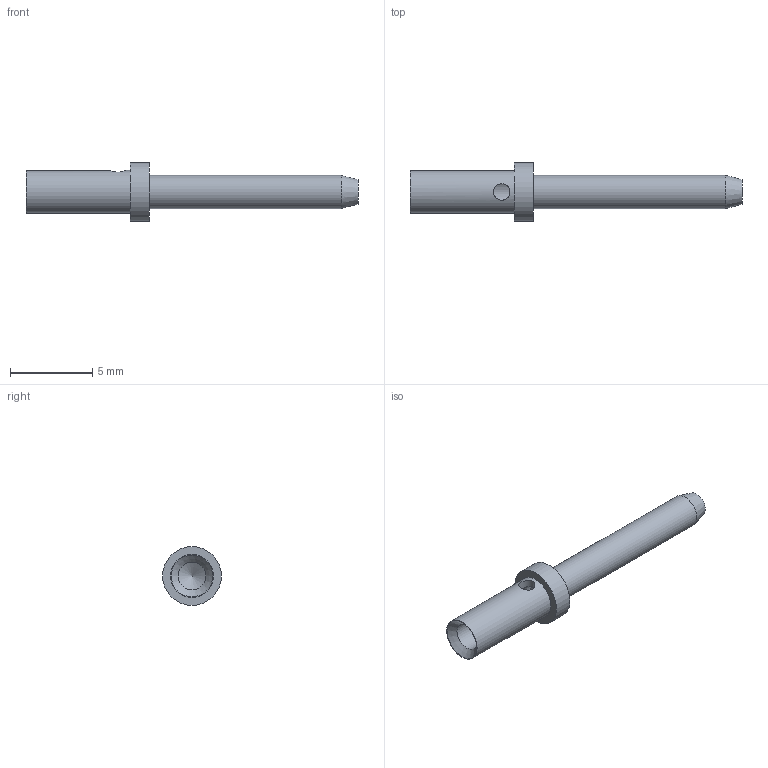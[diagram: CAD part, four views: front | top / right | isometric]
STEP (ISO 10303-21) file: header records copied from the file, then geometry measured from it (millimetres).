
FILE_DESCRIPTION(/* description */ (''),/* implementation_level */ '2;1');
FILE_NAME(/* name */ 'Z:\STEP folder\460329903.ipt.stp',/* time_stamp */ '2016-12-21T13:06:18+00:00',/* author */ ('P. Karlsons'),/* organization */ (''),/* preprocessor_version */ 'ST-DEVELOPER v15.2',/* originating_system */ 'Autodesk Inventor 2014',/* authorisation */ '');
FILE_SCHEMA (('AUTOMOTIVE_DESIGN { 1 0 10303 214 3 1 1 }'));
Length unit declared in the file: millimetre
Products named in the file (1): 460329903
Bounding box: 20.22 x 3.58 x 3.58 mm (x, y, z)
Volume: 69.6 mm3; surface area: 199.8 mm2
Topology: 1 solids, 1 shells, 12 faces, 22 edges, 14 vertices
Faces by surface type: cylinder 5, plane 4, cone 3
Full cylindrical faces by diameter (mm): 1 x1, 1.7 x1, 2.03 x1, 2.62 x1, 3.58 x1
Entity records: 329 total; most frequent: CARTESIAN_POINT 103, DIRECTION 46, EDGE_LOOP 24, ORIENTED_EDGE 24, AXIS2_PLACEMENT_3D 23, FACE_BOUND 16, VERTEX_POINT 12, EDGE_CURVE 12
